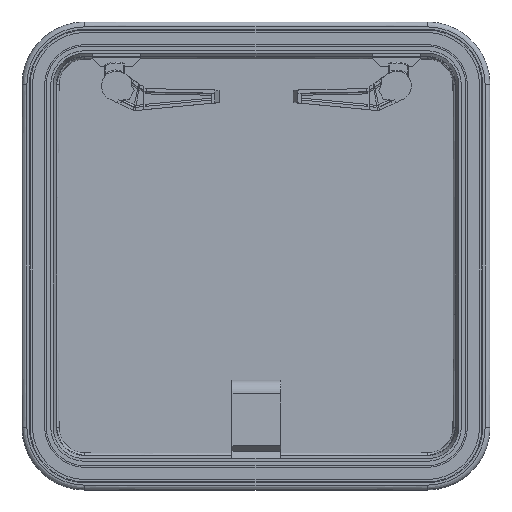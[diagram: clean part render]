
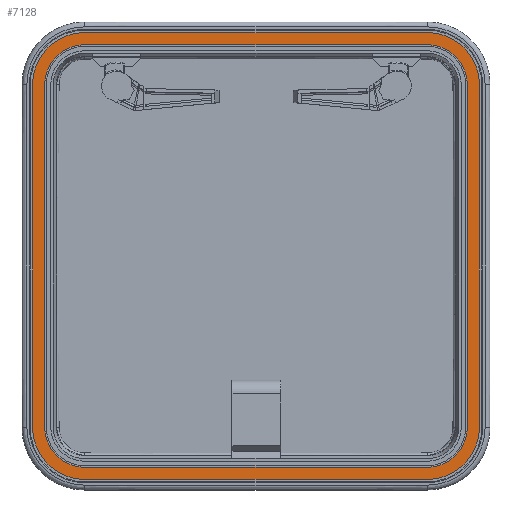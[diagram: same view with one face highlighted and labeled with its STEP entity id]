
A CAD part, top view. The second image highlights one B-rep face of the part: STEP entity #7128.
In plain terms, the highlighted planar face has unit normal (0, 0, 1) as drawn and (0, 0, -1) by its records, which use the part's own axes.
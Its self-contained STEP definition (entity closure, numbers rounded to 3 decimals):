
#1537=DIRECTION('',(1.,0.,0.));
#1538=VECTOR('',#1537,423.);
#1539=CARTESIAN_POINT('',(77.5,28.,-1.5));
#1540=LINE('',#1539,#1538);
#1545=CARTESIAN_POINT('',(77.5,77.5,-1.5));
#1546=DIRECTION('',(0.,0.,1.));
#1547=DIRECTION('',(-1.,0.,0.));
#1548=AXIS2_PLACEMENT_3D('',#1545,#1546,#1547);
#1558=DIRECTION('',(0.,-1.,0.));
#1559=VECTOR('',#1558,423.);
#1560=CARTESIAN_POINT('',(28.,500.5,-1.5));
#1561=LINE('',#1560,#1559);
#1566=CARTESIAN_POINT('',(77.5,500.5,-1.5));
#1567=DIRECTION('',(0.,0.,1.));
#1568=DIRECTION('',(0.,1.,0.));
#1569=AXIS2_PLACEMENT_3D('',#1566,#1567,#1568);
#1575=DIRECTION('',(-1.,0.,0.));
#1576=VECTOR('',#1575,423.);
#1577=CARTESIAN_POINT('',(500.5,550.,-1.5));
#1578=LINE('',#1577,#1576);
#1583=CARTESIAN_POINT('',(500.5,500.5,-1.5));
#1584=DIRECTION('',(0.,0.,1.));
#1585=DIRECTION('',(1.,0.,0.));
#1586=AXIS2_PLACEMENT_3D('',#1583,#1584,#1585);
#1592=DIRECTION('',(0.,1.,0.));
#1593=VECTOR('',#1592,423.);
#1594=CARTESIAN_POINT('',(550.,77.5,-1.5));
#1595=LINE('',#1594,#1593);
#1600=CARTESIAN_POINT('',(500.5,77.5,-1.5));
#1601=DIRECTION('',(0.,0.,1.));
#1602=DIRECTION('',(0.,-1.,0.));
#1603=AXIS2_PLACEMENT_3D('',#1600,#1601,#1602);
#1605=DIRECTION('',(1.,0.,0.));
#1606=VECTOR('',#1605,423.);
#1607=CARTESIAN_POINT('',(77.5,13.,-1.5));
#1608=LINE('',#1607,#1606);
#1609=CARTESIAN_POINT('',(500.5,77.5,-1.5));
#1610=DIRECTION('',(0.,0.,1.));
#1611=DIRECTION('',(0.,-1.,0.));
#1612=AXIS2_PLACEMENT_3D('',#1609,#1610,#1611);
#1614=DIRECTION('',(0.,1.,0.));
#1615=VECTOR('',#1614,423.);
#1616=CARTESIAN_POINT('',(565.,77.5,-1.5));
#1617=LINE('',#1616,#1615);
#1618=CARTESIAN_POINT('',(500.5,500.5,-1.5));
#1619=DIRECTION('',(0.,0.,1.));
#1620=DIRECTION('',(1.,0.,0.));
#1621=AXIS2_PLACEMENT_3D('',#1618,#1619,#1620);
#1623=DIRECTION('',(-1.,0.,0.));
#1624=VECTOR('',#1623,423.);
#1625=CARTESIAN_POINT('',(500.5,565.,-1.5));
#1626=LINE('',#1625,#1624);
#1627=CARTESIAN_POINT('',(77.5,500.5,-1.5));
#1628=DIRECTION('',(0.,0.,1.));
#1629=DIRECTION('',(0.,1.,0.));
#1630=AXIS2_PLACEMENT_3D('',#1627,#1628,#1629);
#1632=DIRECTION('',(0.,-1.,0.));
#1633=VECTOR('',#1632,423.);
#1634=CARTESIAN_POINT('',(13.,500.5,-1.5));
#1635=LINE('',#1634,#1633);
#1636=CARTESIAN_POINT('',(77.5,77.5,-1.5));
#1637=DIRECTION('',(0.,0.,1.));
#1638=DIRECTION('',(-1.,0.,0.));
#1639=AXIS2_PLACEMENT_3D('',#1636,#1637,#1638);
#2021=CARTESIAN_POINT('',(77.5,13.,-1.5));
#2023=VERTEX_POINT('',#2021);
#2024=CARTESIAN_POINT('',(77.5,28.,-1.5));
#2026=VERTEX_POINT('',#2024);
#2062=CARTESIAN_POINT('',(500.5,13.,-1.5));
#2064=VERTEX_POINT('',#2062);
#2065=CARTESIAN_POINT('',(500.5,28.,-1.5));
#2067=VERTEX_POINT('',#2065);
#2103=CARTESIAN_POINT('',(565.,77.5,-1.5));
#2105=VERTEX_POINT('',#2103);
#2106=CARTESIAN_POINT('',(550.,77.5,-1.5));
#2108=VERTEX_POINT('',#2106);
#2144=CARTESIAN_POINT('',(565.,500.5,-1.5));
#2146=VERTEX_POINT('',#2144);
#2147=CARTESIAN_POINT('',(550.,500.5,-1.5));
#2149=VERTEX_POINT('',#2147);
#2185=CARTESIAN_POINT('',(500.5,565.,-1.5));
#2187=VERTEX_POINT('',#2185);
#2188=CARTESIAN_POINT('',(500.5,550.,-1.5));
#2190=VERTEX_POINT('',#2188);
#2226=CARTESIAN_POINT('',(77.5,565.,-1.5));
#2228=VERTEX_POINT('',#2226);
#2229=CARTESIAN_POINT('',(77.5,550.,-1.5));
#2231=VERTEX_POINT('',#2229);
#2267=CARTESIAN_POINT('',(13.,500.5,-1.5));
#2269=VERTEX_POINT('',#2267);
#2270=CARTESIAN_POINT('',(28.,500.5,-1.5));
#2272=VERTEX_POINT('',#2270);
#2308=CARTESIAN_POINT('',(13.,77.5,-1.5));
#2310=VERTEX_POINT('',#2308);
#2311=CARTESIAN_POINT('',(28.,77.5,-1.5));
#2313=VERTEX_POINT('',#2311);
#7095=CARTESIAN_POINT('',(289.,20.5,-1.5));
#7096=DIRECTION('',(0.,0.,1.));
#7097=DIRECTION('',(0.,1.,0.));
#7098=AXIS2_PLACEMENT_3D('',#7095,#7096,#7097);
#7099=PLANE('',#7098);
#7101=ORIENTED_EDGE('',*,*,#7100,.T.);
#7103=ORIENTED_EDGE('',*,*,#7102,.T.);
#7105=ORIENTED_EDGE('',*,*,#7104,.T.);
#7107=ORIENTED_EDGE('',*,*,#7106,.T.);
#7109=ORIENTED_EDGE('',*,*,#7108,.T.);
#7111=ORIENTED_EDGE('',*,*,#7110,.T.);
#7113=ORIENTED_EDGE('',*,*,#7112,.T.);
#7115=ORIENTED_EDGE('',*,*,#7114,.T.);
#7116=EDGE_LOOP('',(#7101,#7103,#7105,#7107,#7109,#7111,#7113,#7115));
#7117=FACE_OUTER_BOUND('',#7116,.F.);
#7118=ORIENTED_EDGE('',*,*,#7005,.F.);
#7119=ORIENTED_EDGE('',*,*,#7019,.F.);
#7120=ORIENTED_EDGE('',*,*,#7033,.F.);
#7121=ORIENTED_EDGE('',*,*,#7047,.F.);
#7122=ORIENTED_EDGE('',*,*,#7061,.F.);
#7123=ORIENTED_EDGE('',*,*,#7075,.F.);
#7124=ORIENTED_EDGE('',*,*,#7088,.F.);
#7125=ORIENTED_EDGE('',*,*,#6990,.F.);
#7126=EDGE_LOOP('',(#7118,#7119,#7120,#7121,#7122,#7123,#7124,#7125));
#7127=FACE_BOUND('',#7126,.F.);
#7128=ADVANCED_FACE('',(#7117,#7127),#7099,.F.);
#1549=CIRCLE('',#1548,49.5);
#1570=CIRCLE('',#1569,49.5);
#1587=CIRCLE('',#1586,49.5);
#1604=CIRCLE('',#1603,49.5);
#1613=CIRCLE('',#1612,64.5);
#1622=CIRCLE('',#1621,64.5);
#1631=CIRCLE('',#1630,64.5);
#1640=CIRCLE('',#1639,64.5);
#6990=EDGE_CURVE('',#2026,#2067,#1540,.T.);
#7005=EDGE_CURVE('',#2313,#2026,#1549,.T.);
#7019=EDGE_CURVE('',#2272,#2313,#1561,.T.);
#7033=EDGE_CURVE('',#2231,#2272,#1570,.T.);
#7047=EDGE_CURVE('',#2190,#2231,#1578,.T.);
#7061=EDGE_CURVE('',#2149,#2190,#1587,.T.);
#7075=EDGE_CURVE('',#2108,#2149,#1595,.T.);
#7088=EDGE_CURVE('',#2067,#2108,#1604,.T.);
#7100=EDGE_CURVE('',#2023,#2064,#1608,.T.);
#7102=EDGE_CURVE('',#2064,#2105,#1613,.T.);
#7104=EDGE_CURVE('',#2105,#2146,#1617,.T.);
#7106=EDGE_CURVE('',#2146,#2187,#1622,.T.);
#7108=EDGE_CURVE('',#2187,#2228,#1626,.T.);
#7110=EDGE_CURVE('',#2228,#2269,#1631,.T.);
#7112=EDGE_CURVE('',#2269,#2310,#1635,.T.);
#7114=EDGE_CURVE('',#2310,#2023,#1640,.T.);
